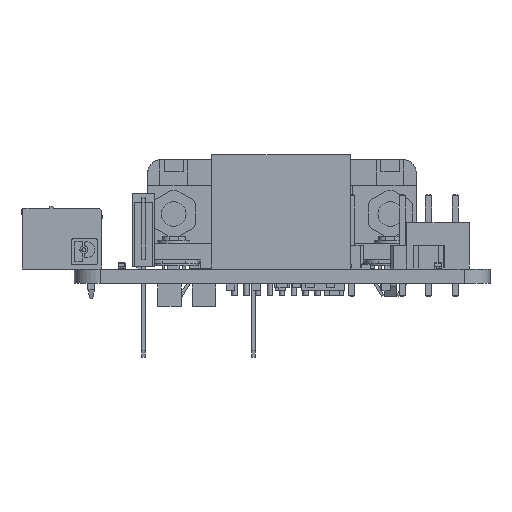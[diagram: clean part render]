
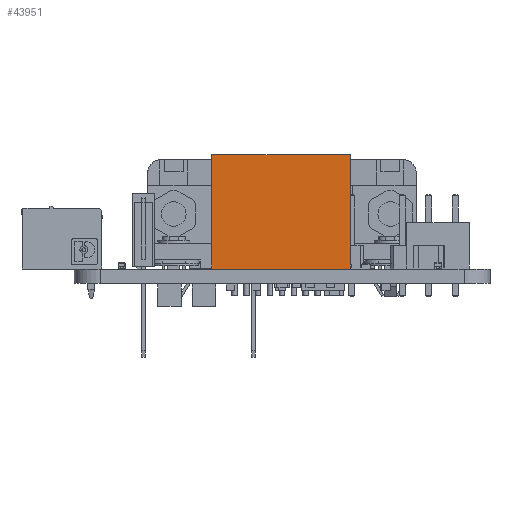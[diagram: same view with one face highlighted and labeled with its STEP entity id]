
A CAD part, left-side view. The second image highlights one B-rep face of the part: STEP entity #43951.
In plain terms, the highlighted planar face has unit normal (-1, 0, 0).
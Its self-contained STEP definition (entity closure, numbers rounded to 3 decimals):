
#43951 = ADVANCED_FACE('',(#43952),#43966,.F.);
#43952 = FACE_BOUND('',#43953,.F.);
#43953 = EDGE_LOOP('',(#43954,#43989,#44017,#44045));
#43954 = ORIENTED_EDGE('',*,*,#43955,.T.);
#43955 = EDGE_CURVE('',#43956,#43958,#43960,.T.);
#43956 = VERTEX_POINT('',#43957);
#43957 = CARTESIAN_POINT('',(-7.7,8.,0.));
#43958 = VERTEX_POINT('',#43959);
#43959 = CARTESIAN_POINT('',(-7.7,8.,13.21));
#43960 = SURFACE_CURVE('',#43961,(#43965,#43977),.PCURVE_S1.);
#43961 = LINE('',#43962,#43963);
#43962 = CARTESIAN_POINT('',(-7.7,8.,0.));
#43963 = VECTOR('',#43964,1.);
#43964 = DIRECTION('',(0.,0.,1.));
#43965 = PCURVE('',#43966,#43971);
#43966 = PLANE('',#43967);
#43967 = AXIS2_PLACEMENT_3D('',#43968,#43969,#43970);
#43968 = CARTESIAN_POINT('',(-7.7,8.,0.));
#43969 = DIRECTION('',(1.,0.,0.));
#43970 = DIRECTION('',(0.,-1.,0.));
#43971 = DEFINITIONAL_REPRESENTATION('',(#43972),#43976);
#43972 = LINE('',#43973,#43974);
#43973 = CARTESIAN_POINT('',(0.,0.));
#43974 = VECTOR('',#43975,1.);
#43975 = DIRECTION('',(0.,-1.));
#43976 = ( GEOMETRIC_REPRESENTATION_CONTEXT(2) 
PARAMETRIC_REPRESENTATION_CONTEXT() REPRESENTATION_CONTEXT('2D SPACE',''
  ) );
#43977 = PCURVE('',#43978,#43983);
#43978 = PLANE('',#43979);
#43979 = AXIS2_PLACEMENT_3D('',#43980,#43981,#43982);
#43980 = CARTESIAN_POINT('',(7.7,8.,0.));
#43981 = DIRECTION('',(0.,-1.,0.));
#43982 = DIRECTION('',(-1.,0.,0.));
#43983 = DEFINITIONAL_REPRESENTATION('',(#43984),#43988);
#43984 = LINE('',#43985,#43986);
#43985 = CARTESIAN_POINT('',(15.4,0.));
#43986 = VECTOR('',#43987,1.);
#43987 = DIRECTION('',(0.,-1.));
#43988 = ( GEOMETRIC_REPRESENTATION_CONTEXT(2) 
PARAMETRIC_REPRESENTATION_CONTEXT() REPRESENTATION_CONTEXT('2D SPACE',''
  ) );
#43989 = ORIENTED_EDGE('',*,*,#43990,.T.);
#43990 = EDGE_CURVE('',#43958,#43991,#43993,.T.);
#43991 = VERTEX_POINT('',#43992);
#43992 = CARTESIAN_POINT('',(-7.7,-8.,13.21));
#43993 = SURFACE_CURVE('',#43994,(#43998,#44005),.PCURVE_S1.);
#43994 = LINE('',#43995,#43996);
#43995 = CARTESIAN_POINT('',(-7.7,8.,13.21));
#43996 = VECTOR('',#43997,1.);
#43997 = DIRECTION('',(0.,-1.,0.));
#43998 = PCURVE('',#43966,#43999);
#43999 = DEFINITIONAL_REPRESENTATION('',(#44000),#44004);
#44000 = LINE('',#44001,#44002);
#44001 = CARTESIAN_POINT('',(0.,-13.21));
#44002 = VECTOR('',#44003,1.);
#44003 = DIRECTION('',(1.,0.));
#44004 = ( GEOMETRIC_REPRESENTATION_CONTEXT(2) 
PARAMETRIC_REPRESENTATION_CONTEXT() REPRESENTATION_CONTEXT('2D SPACE',''
  ) );
#44005 = PCURVE('',#44006,#44011);
#44006 = PLANE('',#44007);
#44007 = AXIS2_PLACEMENT_3D('',#44008,#44009,#44010);
#44008 = CARTESIAN_POINT('',(-7.7,8.,13.21));
#44009 = DIRECTION('',(0.,0.,-1.));
#44010 = DIRECTION('',(-1.,0.,0.));
#44011 = DEFINITIONAL_REPRESENTATION('',(#44012),#44016);
#44012 = LINE('',#44013,#44014);
#44013 = CARTESIAN_POINT('',(0.,0.));
#44014 = VECTOR('',#44015,1.);
#44015 = DIRECTION('',(0.,-1.));
#44016 = ( GEOMETRIC_REPRESENTATION_CONTEXT(2) 
PARAMETRIC_REPRESENTATION_CONTEXT() REPRESENTATION_CONTEXT('2D SPACE',''
  ) );
#44017 = ORIENTED_EDGE('',*,*,#44018,.F.);
#44018 = EDGE_CURVE('',#44019,#43991,#44021,.T.);
#44019 = VERTEX_POINT('',#44020);
#44020 = CARTESIAN_POINT('',(-7.7,-8.,0.));
#44021 = SURFACE_CURVE('',#44022,(#44026,#44033),.PCURVE_S1.);
#44022 = LINE('',#44023,#44024);
#44023 = CARTESIAN_POINT('',(-7.7,-8.,0.));
#44024 = VECTOR('',#44025,1.);
#44025 = DIRECTION('',(0.,0.,1.));
#44026 = PCURVE('',#43966,#44027);
#44027 = DEFINITIONAL_REPRESENTATION('',(#44028),#44032);
#44028 = LINE('',#44029,#44030);
#44029 = CARTESIAN_POINT('',(16.,0.));
#44030 = VECTOR('',#44031,1.);
#44031 = DIRECTION('',(0.,-1.));
#44032 = ( GEOMETRIC_REPRESENTATION_CONTEXT(2) 
PARAMETRIC_REPRESENTATION_CONTEXT() REPRESENTATION_CONTEXT('2D SPACE',''
  ) );
#44033 = PCURVE('',#44034,#44039);
#44034 = PLANE('',#44035);
#44035 = AXIS2_PLACEMENT_3D('',#44036,#44037,#44038);
#44036 = CARTESIAN_POINT('',(-7.7,-8.,0.));
#44037 = DIRECTION('',(0.,1.,0.));
#44038 = DIRECTION('',(1.,0.,0.));
#44039 = DEFINITIONAL_REPRESENTATION('',(#44040),#44044);
#44040 = LINE('',#44041,#44042);
#44041 = CARTESIAN_POINT('',(0.,0.));
#44042 = VECTOR('',#44043,1.);
#44043 = DIRECTION('',(0.,-1.));
#44044 = ( GEOMETRIC_REPRESENTATION_CONTEXT(2) 
PARAMETRIC_REPRESENTATION_CONTEXT() REPRESENTATION_CONTEXT('2D SPACE',''
  ) );
#44045 = ORIENTED_EDGE('',*,*,#44046,.F.);
#44046 = EDGE_CURVE('',#43956,#44019,#44047,.T.);
#44047 = SURFACE_CURVE('',#44048,(#44052,#44059),.PCURVE_S1.);
#44048 = LINE('',#44049,#44050);
#44049 = CARTESIAN_POINT('',(-7.7,8.,0.));
#44050 = VECTOR('',#44051,1.);
#44051 = DIRECTION('',(0.,-1.,0.));
#44052 = PCURVE('',#43966,#44053);
#44053 = DEFINITIONAL_REPRESENTATION('',(#44054),#44058);
#44054 = LINE('',#44055,#44056);
#44055 = CARTESIAN_POINT('',(0.,0.));
#44056 = VECTOR('',#44057,1.);
#44057 = DIRECTION('',(1.,0.));
#44058 = ( GEOMETRIC_REPRESENTATION_CONTEXT(2) 
PARAMETRIC_REPRESENTATION_CONTEXT() REPRESENTATION_CONTEXT('2D SPACE',''
  ) );
#44059 = PCURVE('',#44060,#44065);
#44060 = PLANE('',#44061);
#44061 = AXIS2_PLACEMENT_3D('',#44062,#44063,#44064);
#44062 = CARTESIAN_POINT('',(-7.7,8.,0.));
#44063 = DIRECTION('',(0.,0.,-1.));
#44064 = DIRECTION('',(-1.,0.,0.));
#44065 = DEFINITIONAL_REPRESENTATION('',(#44066),#44070);
#44066 = LINE('',#44067,#44068);
#44067 = CARTESIAN_POINT('',(0.,0.));
#44068 = VECTOR('',#44069,1.);
#44069 = DIRECTION('',(0.,-1.));
#44070 = ( GEOMETRIC_REPRESENTATION_CONTEXT(2) 
PARAMETRIC_REPRESENTATION_CONTEXT() REPRESENTATION_CONTEXT('2D SPACE',''
  ) );
